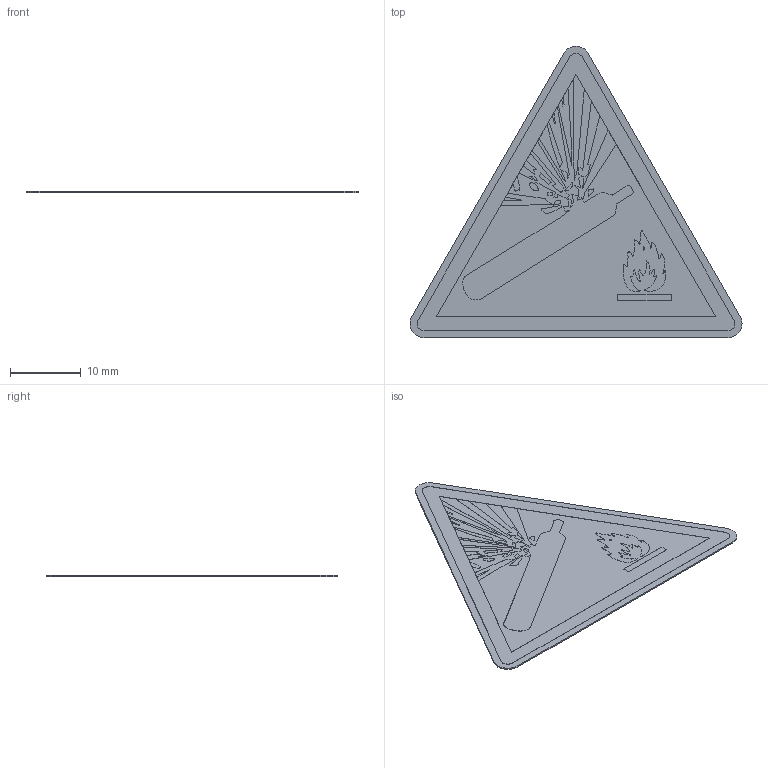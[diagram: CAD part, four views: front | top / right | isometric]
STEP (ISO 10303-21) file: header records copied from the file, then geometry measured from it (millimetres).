
FILE_DESCRIPTION (( 'STEP AP214' ), '1' );
FILE_NAME ('W029_Warnung vor Gasflaschen.STEP', '2022-02-22T08:24:35', ( '' ), ( '' ), 'SwSTEP 2.0', 'SolidWorks 2021', '' );
FILE_SCHEMA (( 'AUTOMOTIVE_DESIGN' ));
Length unit declared in the file: millimetre
Products named in the file (1): W029_Warnung vor Gasflaschen
Bounding box: 47.07 x 41.3 x 0.22 mm (x, y, z)
Volume: 222.3 mm3; surface area: 2186.5 mm2
Topology: 1 solids, 1 shells, 177 faces, 486 edges, 324 vertices
Faces by surface type: plane 149, bspline 18, cylinder 10
Entity records: 8394 total; most frequent: CARTESIAN_POINT 2216, ORIENTED_EDGE 972, DIRECTION 790, EDGE_CURVE 486, VECTOR 430, LINE 430, VERTEX_POINT 324, EDGE_LOOP 190
